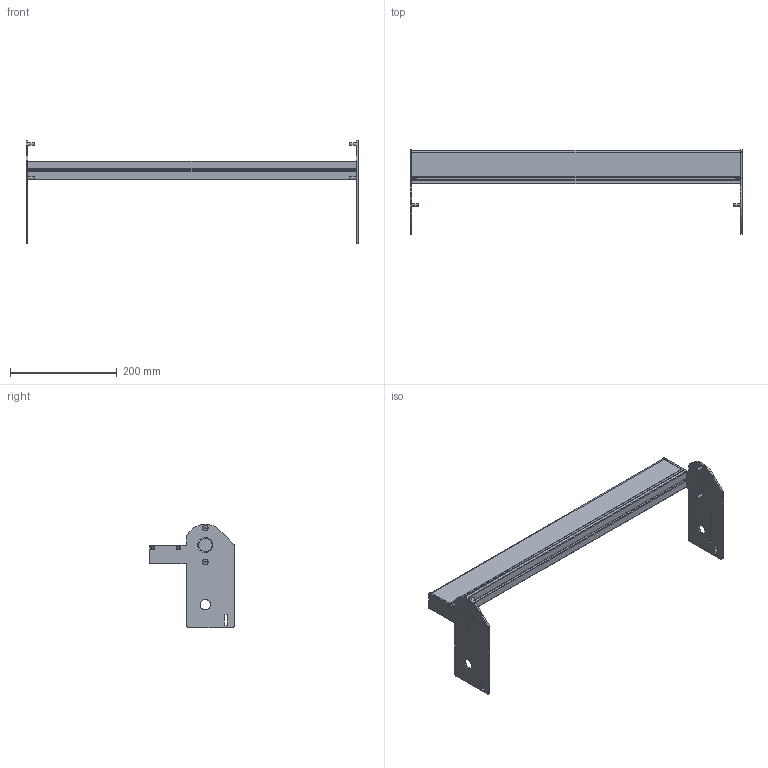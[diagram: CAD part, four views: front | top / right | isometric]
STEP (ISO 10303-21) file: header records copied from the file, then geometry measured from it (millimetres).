
FILE_DESCRIPTION((''),'2;1');
FILE_NAME('350712-24_ASM','2023-03-22T',('jenni.wallner'),(''),'PRO/ENGINEER BY PARAMETRIC TECHNOLOGY CORPORATION, 2012420','PRO/ENGINEER BY PARAMETRIC TECHNOLOGY CORPORATION, 2012420','');
FILE_SCHEMA(('CONFIG_CONTROL_DESIGN'));
Length unit declared in the file: inch
Products named in the file (6): 350669-24; 350667; 350668; 930412M; 930516M; 350712-24_ASM
Assembly tree (11 placements, depth 2):
  350712-24_ASM
    350669-24
    350667
    350668
    930412M  x4
    930516M  x4
Bounding box: 621.94 x 158.09 x 193.27 mm (x, y, z)
Volume: 598648.3 mm3; surface area: 391816.9 mm2
Topology: 11 solids, 11 shells, 334 faces, 872 edges, 568 vertices
Faces by surface type: plane 150, cylinder 136, cone 48
Entity records: 7773 total; most frequent: DIRECTION 1398, CARTESIAN_POINT 1317, ORIENTED_EDGE 1288, EDGE_CURVE 644, AXIS2_PLACEMENT_3D 505, VERTEX_POINT 424, VECTOR 388, LINE 388
